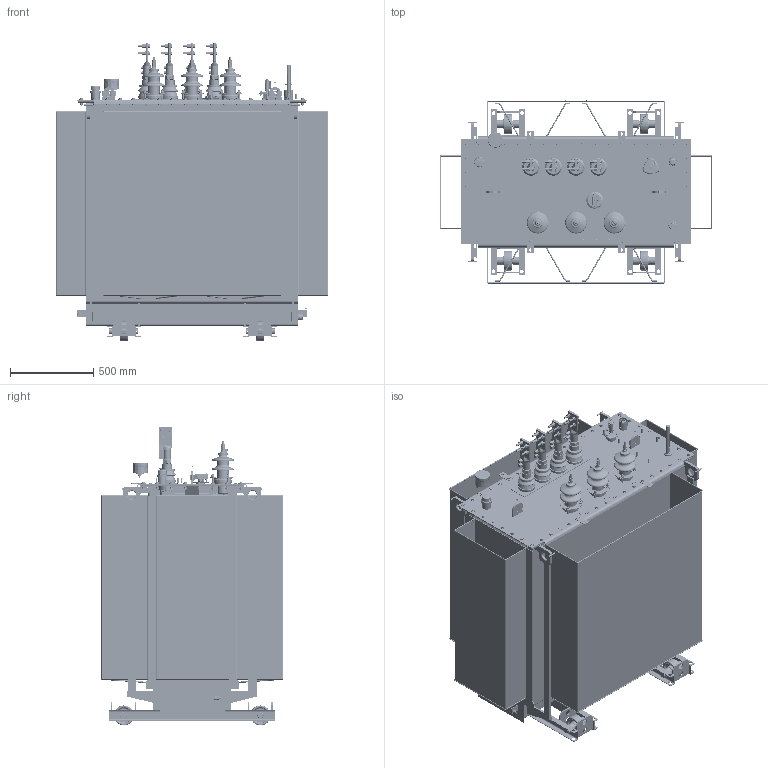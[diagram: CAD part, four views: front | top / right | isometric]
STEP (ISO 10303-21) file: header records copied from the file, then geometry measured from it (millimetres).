
FILE_DESCRIPTION(/* description */ (''),/* implementation_level */ '2;1');
FILE_NAME(/* name */ 'D:\SEARCHWORK\Готовые\Готовые ТМГ\ТМГ33\ТМГ33-1000-10-УХЛ1-Х3К2\ТМГ33-1000-10-УХЛ1-Х3К2.stp',/* time_stamp */ '2024-01-25T13:56:56+03:00',/* author */ ('55505'),/* organization */ (''),/* preprocessor_version */ 'ST-DEVELOPER v18.1',/* originating_system */ 'Autodesk Inventor 2021',/* authorisation */ '');
FILE_SCHEMA (('AUTOMOTIVE_DESIGN { 1 0 10303 214 3 1 1 }'));
Products named in the file (1): ВИЕЛ.672333.031
Bounding box: 1636 x 1097.68 x 1794 mm (x, y, z)
Volume: 47724364.5 mm3; surface area: 23873384.3 mm2
Topology: 72 solids, 172 shells, 16932 faces, 43065 edges, 27280 vertices
Faces by surface type: plane 8938, cylinder 4400, bspline 1939, cone 953, torus 569, sphere 133
Full cylindrical faces by diameter (mm): 0.5 x1, 0.71 x2, 1.5 x6, 1.6 x7, 2 x5, 3 x5, 3.1 x4, 3.15 x3, 3.2 x6, 3.4 x4, 3.5 x1, 3.8 x4, 3.96 x21, 4 x56, 4.2 x6, 4.3 x14, 4.5 x24, 4.8 x12, 4.917 x3, 5 x23, 5.3 x5, 5.5 x13, 5.94 x10, 6 x92, 6.2 x5, 6.4 x12, 6.5 x27, 6.9 x6, 7 x13, 7.1 x2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
Entity records: 632263 total; most frequent: CARTESIAN_POINT 220292, ORIENTED_EDGE 85474, DIRECTION 77284, EDGE_CURVE 42761, AXIS2_PLACEMENT_3D 27821, VERTEX_POINT 27327, LINE 21642, VECTOR 21642
